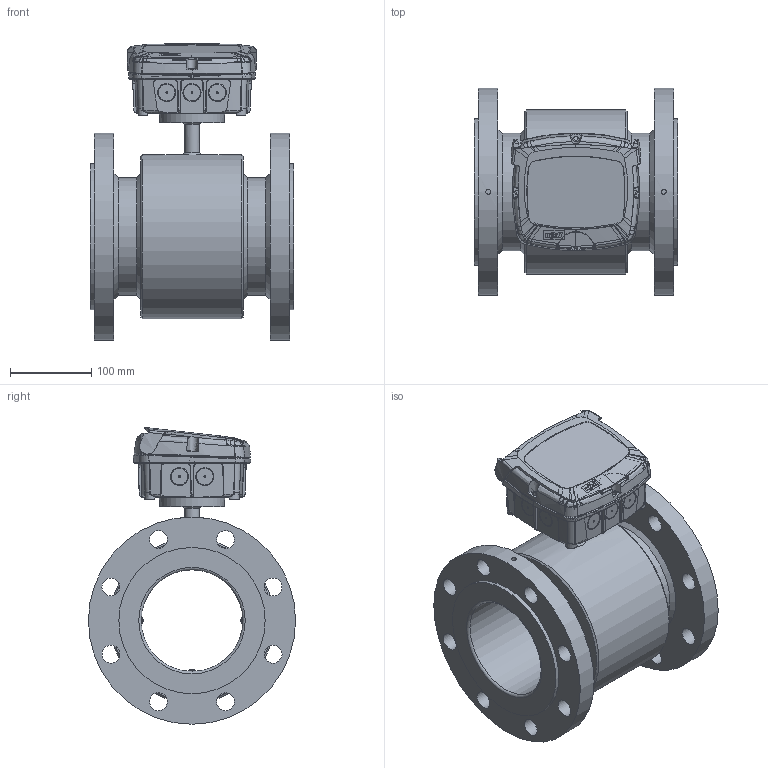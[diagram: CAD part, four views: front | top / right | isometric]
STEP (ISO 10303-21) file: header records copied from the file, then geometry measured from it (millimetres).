
FILE_DESCRIPTION((''),'2;1');
FILE_NAME('C:\Users\Claus\Dropbox\Projects 2011 - 2012\MJK Automation AS\DN 125 - ANSI B16,5.stp','2014-10-24T15:17:21',('Claus'),(''),'Autodesk Inventor 2013','Autodesk Inventor 2013','');
FILE_SCHEMA(('AUTOMOTIVE_DESIGN { 1 0 10303 214 1 1 1 1 }'));
Length unit declared in the file: millimetre
Products named in the file (7): DN 125 - ANSI B16,5; FC_MagFlux_assembly_r1; CH Bund ml; FC Top rev 06.04; CH 03.02; Electrode group DN15 - DN32
Assembly tree (8 placements, depth 3):
  DN 125 - ANSI B16,5
    DN 125 - ANSI B16,5
    FC_MagFlux_assembly_r1
      CH Bund ml
      FC Top rev 06.04
      CH 03.02
    Electrode group DN15 - DN32  x3
Bounding box: 250 x 255 x 364.84 mm (x, y, z)
Volume: 5013552.7 mm3; surface area: 690087.6 mm2
Topology: 10 solids, 10 shells, 2935 faces, 7994 edges, 5203 vertices
Faces by surface type: bspline 1752, plane 810, cylinder 210, cone 123, torus 25, revolution 9, sphere 6
Full cylindrical faces by diameter (mm): 2.5 x3, 3 x6, 4 x1, 6 x2, 6.5 x4, 7.042 x4, 8 x3, 8.048 x4, 12.072 x4, 15 x1, 18 x1, 18.108 x1, 22 x16, 64 x1, 125 x1, 145 x2, 180 x2, 202 x1, 255 x2
Entity records: 234060 total; most frequent: CARTESIAN_POINT 171564, ORIENTED_EDGE 15496, DIRECTION 7757, EDGE_CURVE 7748, VERTEX_POINT 5141, EDGE_LOOP 3273, VECTOR 3112, LINE 3112
